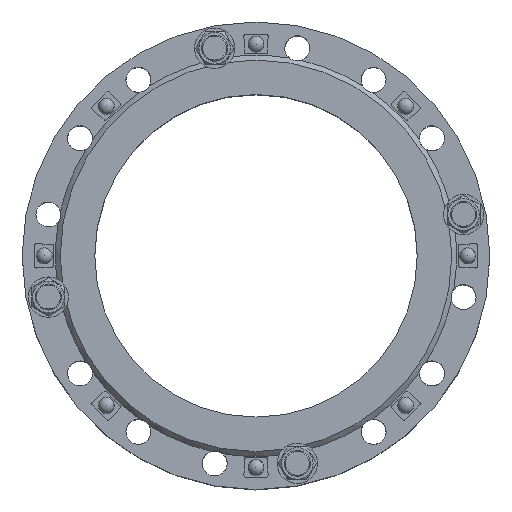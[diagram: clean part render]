
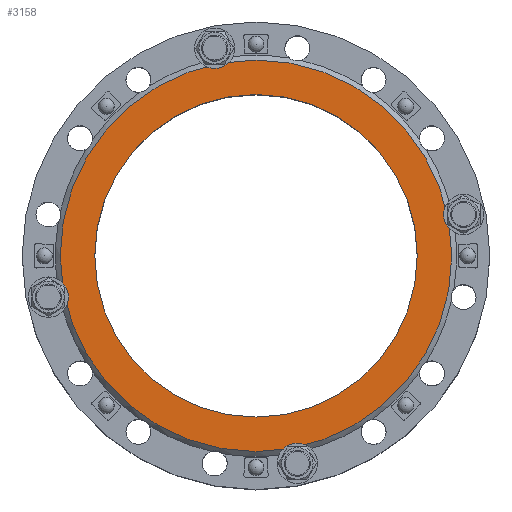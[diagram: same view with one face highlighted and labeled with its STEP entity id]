
A CAD part, top view. The second image highlights one B-rep face of the part: STEP entity #3158.
In plain terms, the highlighted planar face has unit normal (0, 0, 1) as drawn and (0, 0, -1) by its records, which use the part's own axes.
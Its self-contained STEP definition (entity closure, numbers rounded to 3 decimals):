
#3158=ADVANCED_FACE('',(#4966,#4968),#4970,.F.);
#4966=FACE_BOUND('',#4967,.T.);
#4967=EDGE_LOOP('',(#7317));
#4968=FACE_BOUND('',#4969,.T.);
#4969=EDGE_LOOP('',(#7318));
#4970=PLANE('',#4971);
#4971=AXIS2_PLACEMENT_3D('',#4972,#4973,#4974);
#4972=CARTESIAN_POINT('',(0.,0.,0.));
#4973=DIRECTION('',(0.,0.,1.));
#4974=DIRECTION('',(-1.,0.,0.));
#7317=ORIENTED_EDGE('',*,*,#8235,.F.);
#7318=ORIENTED_EDGE('',*,*,#8365,.T.);
#8235=EDGE_CURVE('',#9421,#9421,#9422,.T.);
#8365=EDGE_CURVE('',#9617,#9617,#9618,.T.);
#9421=VERTEX_POINT('',#16970);
#9422=CIRCLE('',#16971,242.8);
#9617=VERTEX_POINT('',#17460);
#9618=CIRCLE('',#17461,200.);
#16970=CARTESIAN_POINT('',(-242.8,0.,0.));
#16971=AXIS2_PLACEMENT_3D('',#16972,#16973,#16974);
#16972=CARTESIAN_POINT('',(0.,0.,0.));
#16973=DIRECTION('',(0.,0.,1.));
#16974=DIRECTION('',(-1.,0.,0.));
#17460=CARTESIAN_POINT('',(-200.,0.,0.));
#17461=AXIS2_PLACEMENT_3D('',#17462,#17463,#17464);
#17462=CARTESIAN_POINT('',(0.,0.,0.));
#17463=DIRECTION('',(0.,0.,1.));
#17464=DIRECTION('',(-1.,0.,0.));
